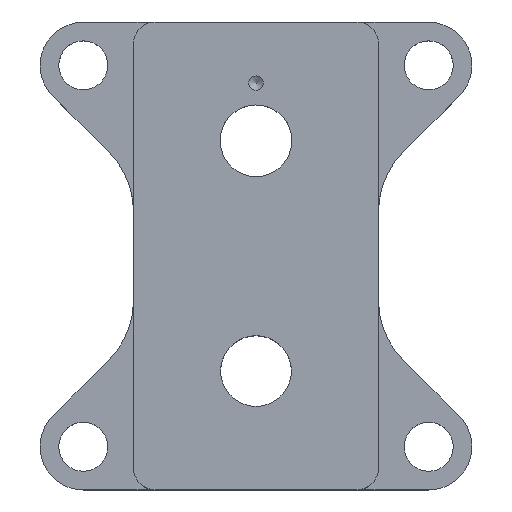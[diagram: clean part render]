
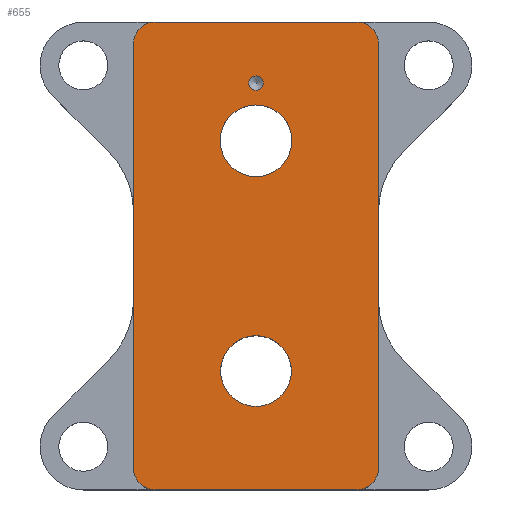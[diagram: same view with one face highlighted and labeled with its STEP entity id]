
A CAD part, top view. The second image highlights one B-rep face of the part: STEP entity #655.
In plain terms, the highlighted planar face has unit normal (0, 0, 1).
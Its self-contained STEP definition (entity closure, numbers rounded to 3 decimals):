
#17=FACE_BOUND('',#115,.T.);
#18=FACE_BOUND('',#116,.T.);
#19=FACE_BOUND('',#117,.T.);
#32=PLANE('',#737);
#78=FACE_OUTER_BOUND('',#114,.T.);
#114=EDGE_LOOP('',(#526,#527,#528,#529,#530,#531,#532,#533));
#115=EDGE_LOOP('',(#534));
#116=EDGE_LOOP('',(#535));
#117=EDGE_LOOP('',(#536));
#160=LINE('',#1050,#216);
#172=LINE('',#1084,#228);
#173=LINE('',#1086,#229);
#174=LINE('',#1090,#230);
#216=VECTOR('',#855,10.);
#228=VECTOR('',#885,10.);
#229=VECTOR('',#886,10.);
#230=VECTOR('',#889,10.);
#255=CIRCLE('',#698,0.5);
#256=CIRCLE('',#700,2.489);
#258=CIRCLE('',#703,2.459);
#269=CIRCLE('',#719,1.5);
#275=CIRCLE('',#731,1.5);
#279=CIRCLE('',#738,1.5);
#280=CIRCLE('',#739,1.5);
#294=VERTEX_POINT('',#976);
#295=VERTEX_POINT('',#980);
#297=VERTEX_POINT('',#986);
#309=VERTEX_POINT('',#1019);
#310=VERTEX_POINT('',#1021);
#319=VERTEX_POINT('',#1049);
#325=VERTEX_POINT('',#1062);
#326=VERTEX_POINT('',#1064);
#333=VERTEX_POINT('',#1085);
#334=VERTEX_POINT('',#1087);
#335=VERTEX_POINT('',#1089);
#357=EDGE_CURVE('',#294,#294,#255,.T.);
#359=EDGE_CURVE('',#295,#295,#256,.T.);
#362=EDGE_CURVE('',#297,#297,#258,.T.);
#379=EDGE_CURVE('',#310,#309,#269,.T.);
#393=EDGE_CURVE('',#319,#310,#160,.T.);
#400=EDGE_CURVE('',#326,#325,#275,.T.);
#410=EDGE_CURVE('',#309,#326,#172,.T.);
#411=EDGE_CURVE('',#325,#333,#173,.T.);
#412=EDGE_CURVE('',#333,#334,#279,.T.);
#413=EDGE_CURVE('',#334,#335,#174,.T.);
#414=EDGE_CURVE('',#335,#319,#280,.T.);
#526=ORIENTED_EDGE('',*,*,#410,.T.);
#527=ORIENTED_EDGE('',*,*,#400,.T.);
#528=ORIENTED_EDGE('',*,*,#411,.T.);
#529=ORIENTED_EDGE('',*,*,#412,.T.);
#530=ORIENTED_EDGE('',*,*,#413,.T.);
#531=ORIENTED_EDGE('',*,*,#414,.T.);
#532=ORIENTED_EDGE('',*,*,#393,.T.);
#533=ORIENTED_EDGE('',*,*,#379,.T.);
#534=ORIENTED_EDGE('',*,*,#357,.T.);
#535=ORIENTED_EDGE('',*,*,#359,.T.);
#536=ORIENTED_EDGE('',*,*,#362,.T.);
#655=ADVANCED_FACE('',(#78,#17,#18,#19),#32,.T.);
#698=AXIS2_PLACEMENT_3D('',#977,#776,#777);
#700=AXIS2_PLACEMENT_3D('',#981,#781,#782);
#703=AXIS2_PLACEMENT_3D('',#987,#788,#789);
#719=AXIS2_PLACEMENT_3D('',#1022,#826,#827);
#731=AXIS2_PLACEMENT_3D('',#1065,#865,#866);
#737=AXIS2_PLACEMENT_3D('',#1083,#883,#884);
#738=AXIS2_PLACEMENT_3D('',#1088,#887,#888);
#739=AXIS2_PLACEMENT_3D('',#1091,#890,#891);
#776=DIRECTION('center_axis',(0.,0.,-1.));
#777=DIRECTION('ref_axis',(1.,0.,0.));
#781=DIRECTION('center_axis',(0.,0.,-1.));
#782=DIRECTION('ref_axis',(1.,0.,0.));
#788=DIRECTION('center_axis',(0.,0.,-1.));
#789=DIRECTION('ref_axis',(1.,0.,0.));
#826=DIRECTION('center_axis',(0.,0.,1.));
#827=DIRECTION('ref_axis',(0.,1.,0.));
#855=DIRECTION('',(1.,0.,0.));
#865=DIRECTION('center_axis',(0.,0.,1.));
#866=DIRECTION('ref_axis',(0.,-1.,0.));
#883=DIRECTION('center_axis',(0.,0.,1.));
#884=DIRECTION('ref_axis',(1.,0.,0.));
#885=DIRECTION('',(0.,1.,0.));
#886=DIRECTION('',(-1.,0.,0.));
#887=DIRECTION('center_axis',(0.,0.,1.));
#888=DIRECTION('ref_axis',(0.,-1.,0.));
#889=DIRECTION('',(0.,-1.,0.));
#890=DIRECTION('center_axis',(0.,0.,1.));
#891=DIRECTION('ref_axis',(0.,1.,0.));
#976=CARTESIAN_POINT('',(-0.5,12.,8.));
#977=CARTESIAN_POINT('Origin',(0.,12.,8.));
#980=CARTESIAN_POINT('',(-2.489,8.,8.));
#981=CARTESIAN_POINT('Origin',(0.,8.,8.));
#986=CARTESIAN_POINT('',(-2.459,-8.,8.));
#987=CARTESIAN_POINT('Origin',(0.,-8.,8.));
#1019=CARTESIAN_POINT('',(8.5,-14.75,8.));
#1021=CARTESIAN_POINT('',(7.,-16.25,8.));
#1022=CARTESIAN_POINT('Origin',(7.,-14.75,8.));
#1049=CARTESIAN_POINT('',(-7.,-16.25,8.));
#1050=CARTESIAN_POINT('',(0.,-16.25,8.));
#1062=CARTESIAN_POINT('',(7.,16.25,8.));
#1064=CARTESIAN_POINT('',(8.5,14.75,8.));
#1065=CARTESIAN_POINT('Origin',(7.,14.75,8.));
#1083=CARTESIAN_POINT('Origin',(-6.029,9.03,8.));
#1084=CARTESIAN_POINT('',(8.5,3.004,8.));
#1085=CARTESIAN_POINT('',(-7.,16.25,8.));
#1086=CARTESIAN_POINT('',(0.,16.25,8.));
#1087=CARTESIAN_POINT('',(-8.5,14.75,8.));
#1088=CARTESIAN_POINT('Origin',(-7.,14.75,8.));
#1089=CARTESIAN_POINT('',(-8.5,-14.75,8.));
#1090=CARTESIAN_POINT('',(-8.5,6.026,8.));
#1091=CARTESIAN_POINT('Origin',(-7.,-14.75,8.));
